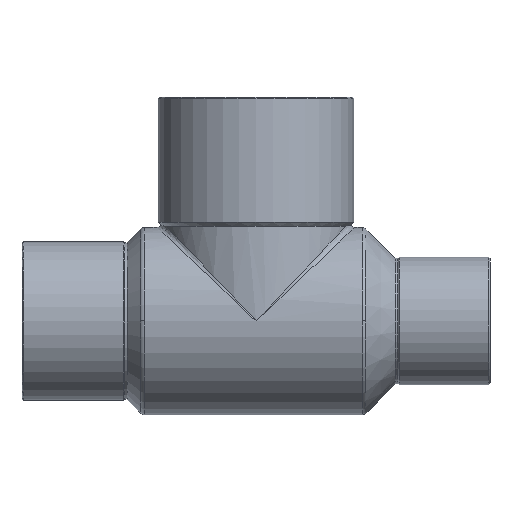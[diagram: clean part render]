
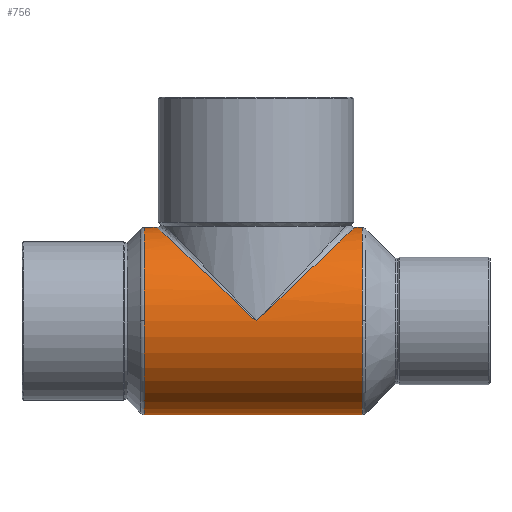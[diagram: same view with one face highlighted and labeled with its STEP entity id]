
A CAD part, top view. The second image highlights one B-rep face of the part: STEP entity #756.
In plain terms, the highlighted cylindrical face has radius 18 mm (diameter 36 mm), a partial arc.
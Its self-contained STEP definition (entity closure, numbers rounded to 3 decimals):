
#612=CARTESIAN_POINT('',(-21.449,0.,18.0));
#613=VERTEX_POINT('',#612);
#621=CARTESIAN_POINT('',(-21.449,18.0,0.));
#622=VERTEX_POINT('',#621);
#623=CARTESIAN_POINT('',(-21.449,0.0,0.0));
#624=DIRECTION('',(-1.0,0.0,0.0));
#625=DIRECTION('',(0.0,-1.0,0.0));
#626=AXIS2_PLACEMENT_3D('',#623,#624,#625);
#627=CIRCLE('',#626,18.0);
#628=EDGE_CURVE('',#613,#622,#627,.T.);
#681=CARTESIAN_POINT('',(-0.503,0.0,0.0));
#682=DIRECTION('',(1.0,0.0,0.0));
#683=DIRECTION('',(0.0,1.0,0.0));
#684=AXIS2_PLACEMENT_3D('',#681,#682,#683);
#685=CYLINDRICAL_SURFACE('',#684,18.0);
#686=CARTESIAN_POINT('',(-19.0,18.0,0.));
#687=VERTEX_POINT('',#686);
#688=CARTESIAN_POINT('',(-21.449,18.0,0.));
#689=DIRECTION('',(1.0,0.0,0.0));
#690=VECTOR('',#689,2.449);
#691=LINE('',#688,#690);
#692=EDGE_CURVE('',#622,#687,#691,.T.);
#693=ORIENTED_EDGE('',*,*,#692,.F.);
#694=ORIENTED_EDGE('',*,*,#628,.F.);
#695=CARTESIAN_POINT('',(-21.449,-18.0,0.));
#696=VERTEX_POINT('',#695);
#697=CARTESIAN_POINT('',(-21.449,0.0,0.0));
#698=DIRECTION('',(-1.0,0.0,0.0));
#699=DIRECTION('',(0.0,-1.0,0.0));
#700=AXIS2_PLACEMENT_3D('',#697,#698,#699);
#701=CIRCLE('',#700,18.0);
#702=EDGE_CURVE('',#696,#613,#701,.T.);
#703=ORIENTED_EDGE('',*,*,#702,.F.);
#704=CARTESIAN_POINT('',(20.444,-18.0,0.));
#705=VERTEX_POINT('',#704);
#706=CARTESIAN_POINT('',(20.444,-18.0,0.));
#707=DIRECTION('',(-1.0,0.0,0.0));
#708=VECTOR('',#707,41.892);
#709=LINE('',#706,#708);
#710=EDGE_CURVE('',#705,#696,#709,.T.);
#711=ORIENTED_EDGE('',*,*,#710,.F.);
#712=CARTESIAN_POINT('',(20.444,0.,18.0));
#713=VERTEX_POINT('',#712);
#714=CARTESIAN_POINT('',(20.444,0.0,0.0));
#715=DIRECTION('',(1.0,0.0,0.0));
#716=DIRECTION('',(0.0,-1.0,0.0));
#717=AXIS2_PLACEMENT_3D('',#714,#715,#716);
#718=CIRCLE('',#717,18.0);
#719=EDGE_CURVE('',#713,#705,#718,.T.);
#720=ORIENTED_EDGE('',*,*,#719,.F.);
#721=CARTESIAN_POINT('',(20.444,18.0,0.0));
#722=VERTEX_POINT('',#721);
#723=CARTESIAN_POINT('',(20.444,0.0,0.0));
#724=DIRECTION('',(1.0,0.0,0.0));
#725=DIRECTION('',(0.0,-1.0,0.0));
#726=AXIS2_PLACEMENT_3D('',#723,#724,#725);
#727=CIRCLE('',#726,18.0);
#728=EDGE_CURVE('',#722,#713,#727,.T.);
#729=ORIENTED_EDGE('',*,*,#728,.F.);
#730=CARTESIAN_POINT('',(19.0,18.0,0.));
#731=VERTEX_POINT('',#730);
#732=CARTESIAN_POINT('',(19.0,18.0,0.));
#733=DIRECTION('',(1.0,0.0,0.0));
#734=VECTOR('',#733,1.444);
#735=LINE('',#732,#734);
#736=EDGE_CURVE('',#731,#722,#735,.T.);
#737=ORIENTED_EDGE('',*,*,#736,.F.);
#738=CARTESIAN_POINT('',(0.0,0.0,18.0));
#739=VERTEX_POINT('',#738);
#740=CARTESIAN_POINT('',(0.0,0.0,0.0));
#741=DIRECTION('',(-0.688,0.726,0.0));
#742=DIRECTION('',(0.726,0.688,0.0));
#743=AXIS2_PLACEMENT_3D('',#740,#741,#742);
#744=ELLIPSE('',#743,26.173,18.);
#745=EDGE_CURVE('',#739,#731,#744,.T.);
#746=ORIENTED_EDGE('',*,*,#745,.F.);
#747=CARTESIAN_POINT('',(0.0,0.0,0.0));
#748=DIRECTION('',(0.688,0.726,0.0));
#749=DIRECTION('',(-0.726,0.688,0.0));
#750=AXIS2_PLACEMENT_3D('',#747,#748,#749);
#751=ELLIPSE('',#750,26.173,18.);
#752=EDGE_CURVE('',#687,#739,#751,.T.);
#753=ORIENTED_EDGE('',*,*,#752,.F.);
#754=EDGE_LOOP('',(#693,#694,#703,#711,#720,#729,#737,#746,#753));
#755=FACE_OUTER_BOUND('',#754,.T.);
#756=ADVANCED_FACE('',(#755),#685,.T.);
